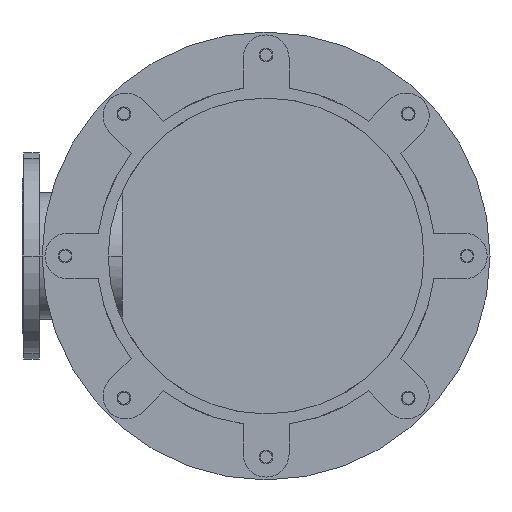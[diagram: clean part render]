
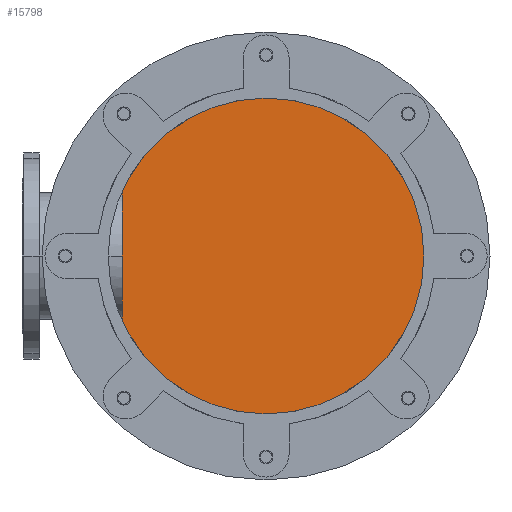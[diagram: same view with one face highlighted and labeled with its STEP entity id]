
A CAD part, front view. The second image highlights one B-rep face of the part: STEP entity #15798.
In plain terms, the highlighted planar face has unit normal (0, -1, 0).
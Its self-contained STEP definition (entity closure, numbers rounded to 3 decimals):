
#3952=CARTESIAN_POINT('',(0.,1359.,0.));
#3953=DIRECTION('',(0.,-1.,0.));
#3954=DIRECTION('',(0.,0.,-1.));
#3955=AXIS2_PLACEMENT_3D('',#3952,#3953,#3954);
#4041=CARTESIAN_POINT('',(0.,1359.,0.));
#4042=DIRECTION('',(0.,-1.,0.));
#4043=DIRECTION('',(0.,0.,1.));
#4044=AXIS2_PLACEMENT_3D('',#4041,#4042,#4043);
#9191=CARTESIAN_POINT('',(0.,1359.,290.));
#9192=CARTESIAN_POINT('',(0.,1359.,-290.));
#9193=VERTEX_POINT('',#9191);
#9194=VERTEX_POINT('',#9192);
#15789=CARTESIAN_POINT('',(0.,1359.,0.));
#15790=DIRECTION('',(0.,1.,0.));
#15791=DIRECTION('',(0.,0.,-1.));
#15792=AXIS2_PLACEMENT_3D('',#15789,#15790,#15791);
#15793=PLANE('',#15792);
#15794=ORIENTED_EDGE('',*,*,#15769,.F.);
#15795=ORIENTED_EDGE('',*,*,#15674,.F.);
#15796=EDGE_LOOP('',(#15794,#15795));
#15797=FACE_OUTER_BOUND('',#15796,.F.);
#15798=ADVANCED_FACE('',(#15797),#15793,.F.);
#3956=CIRCLE('',#3955,290.);
#4045=CIRCLE('',#4044,290.);
#15674=EDGE_CURVE('',#9194,#9193,#3956,.T.);
#15769=EDGE_CURVE('',#9193,#9194,#4045,.T.);
